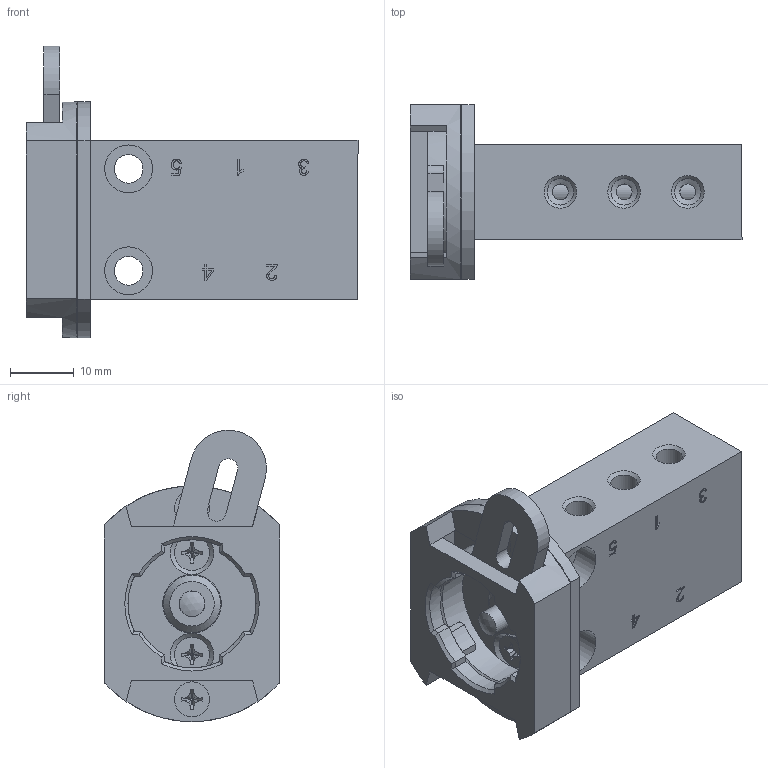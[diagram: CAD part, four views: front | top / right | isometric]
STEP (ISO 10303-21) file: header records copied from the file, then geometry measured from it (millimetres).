
FILE_DESCRIPTION(/* description */ ('Unknown','CAx-IF Rec.Pracs.---Representation and Presentation of Product Manufacturing Information (PMI)---4.0---2014-10-13','CAx-IF Rec.Pracs.---3D Tessellated Geometry---0.4---2014-09-14','2;1'),/* implementation_level */ '2;1');
FILE_NAME(/* name */ 'BA 511 201',/* time_stamp */ '2020-07-06T09:01:50+02:00',/* author */ ('Unknown'),/* organization */ ('Unknown'),/* preprocessor_version */ 'ST-DEVELOPER v16.7',/* originating_system */ 'DEX',/* authorisation */ $);
FILE_SCHEMA (('AP242_MANAGED_MODEL_BASED_3D_ENGINEERING_MIM_LF { 1 0 10303 442 20130219 1 4 }'));
Length unit declared in the file: millimetre
Products named in the file (2): BA 511 201
Assembly tree (1 placements, depth 2):
  BA 511 201
    BA 511 201
Bounding box: 52.1 x 27.5 x 45.73 mm (x, y, z)
Volume: 17937.9 mm3; surface area: 13646.5 mm2
Topology: 11 solids, 11 shells, 411 faces, 988 edges, 618 vertices
Faces by surface type: plane 245, cylinder 89, cone 52, bspline 20, torus 4, sphere 1
Full cylindrical faces by diameter (mm): 1 x1, 2.459 x4, 2.5 x5, 2.8 x2, 3 x4, 3.1 x2, 3.2 x2, 4 x3, 4.05 x1, 4.134 x10, 4.5 x2, 5 x1, 5.5 x6, 5.6 x2, 6 x1, 7 x1, 7.5 x4, 8 x1, 8.06 x1, 8.08 x1, 9 x1, 9.2 x1, 20.1 x1, 24 x1
Entity records: 13997 total; most frequent: CARTESIAN_POINT 3037, DIRECTION 1808, ORIENTED_EDGE 1698, EDGE_CURVE 849, AXIS2_PLACEMENT_3D 629, VERTEX_POINT 581, EDGE_LOOP 580, FACE_BOUND 580
